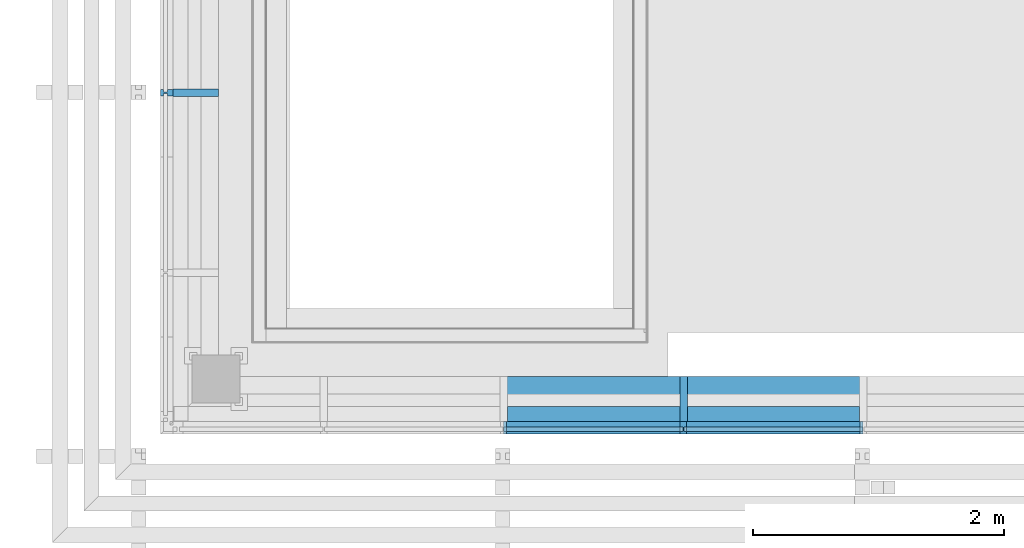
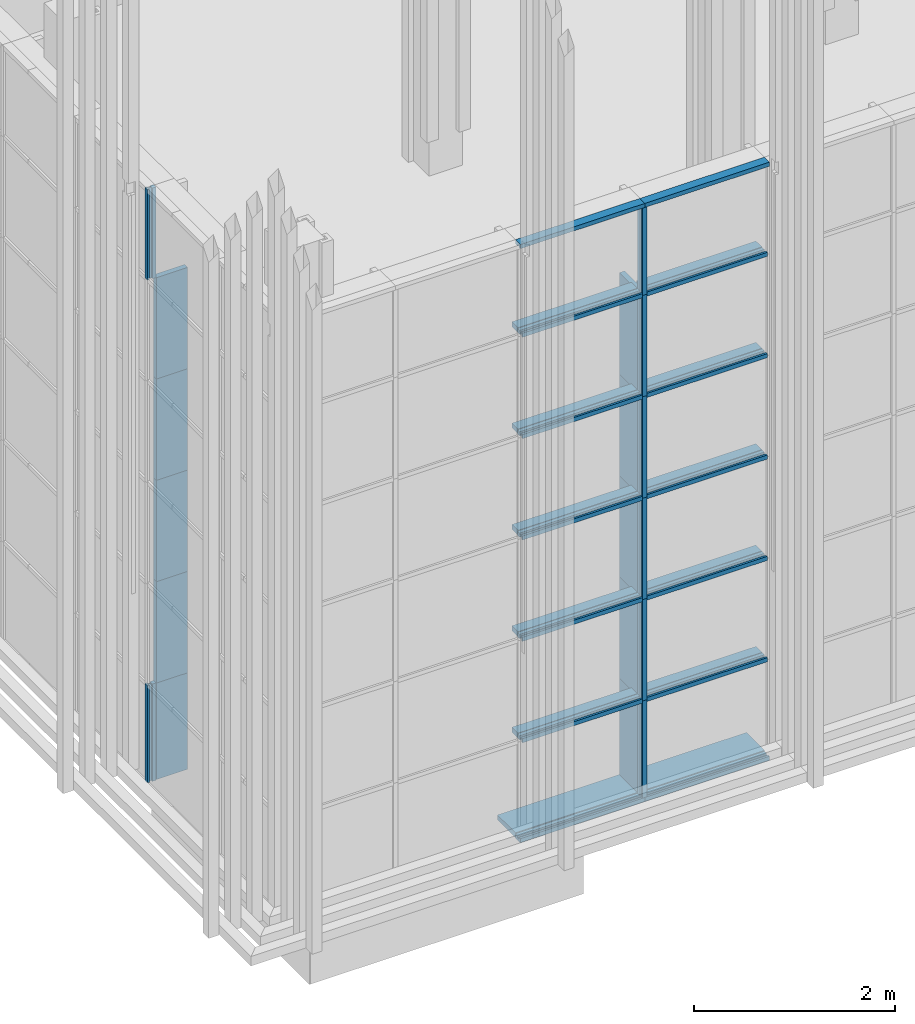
# One storey, part 4 of 260: 44 members, 2 elements without a shape of their own.
"""IFC2X3 building model written with IfcOpenShell, lengths in millimetres."""

import ifcopenshell
import ifcopenshell.guid

model = None  # the IFC model being written
_history = None  # IfcOwnerHistory: only IFC2X3 demands one
_inside = {}  # id of a spatial element -> (the spatial element, [elements in it])
_under = {}  # id of a project, library or spatial element -> (it, [spatial elements below it])
_declared = {}  # id of a project -> (the project, [libraries it declares])
_typed = {}  # id of a type object -> (the type object, [elements of that type])
_made_of = {}  # id of a material, layer set ... -> (it, [elements and type objects made of it])


def new_model(schema):
    """Start an empty IFC model of exactly this schema.

    Asked for "IFC4X3", IfcOpenShell would pick the latest addendum, in which some entities
    have other attributes; the version numbers below select the first issue.
    IFC2X3 requires an IfcOwnerHistory on every rooted entity: one is made here for all.
    """
    global model, _history
    if schema == "IFC4X3":
        model = ifcopenshell.file(schema_version=(4, 3, 0, 0))
    else:
        model = ifcopenshell.file(schema=schema)
    _inside.clear()
    _under.clear()
    _declared.clear()
    _typed.clear()
    _made_of.clear()
    _history = None
    if model.schema == "IFC2X3":
        org = make("IfcOrganization", Name="unknown")
        user = make(
            "IfcPersonAndOrganization",
            ThePerson=make("IfcPerson", FamilyName="unknown"),
            TheOrganization=org,
        )
        app = make(
            "IfcApplication",
            ApplicationDeveloper=org,
            Version="unknown",
            ApplicationFullName="unknown",
            ApplicationIdentifier="unknown",
        )
        _history = make(
            "IfcOwnerHistory",
            OwningUser=user,
            OwningApplication=app,
            ChangeAction="ADDED",
            CreationDate=0,
        )
    return model


def make(cls, **values):
    """One entity of the class cls with the attributes given. An attribute that is None is left unset."""
    return model.create_entity(
        cls, **{name: value for name, value in values.items() if value is not None}
    )


def entity(cls, *values):
    """Any entity or typed value of the class cls, its attributes in the order of the schema. None: left unset."""
    e = model.create_entity(cls)
    for i, value in enumerate(values):
        if value is not None:
            e[i] = value
    return e


def rooted(cls, **values):
    """An entity with a GlobalId (a new one), such as an element, a storey or a relation."""
    return make(cls, GlobalId=ifcopenshell.guid.new(), OwnerHistory=_history, **values)


def si_unit(unit_type, name, prefix=None):
    """IfcSIUnit, for example si_unit("LENGTHUNIT", "METRE", prefix="MILLI")."""
    return make("IfcSIUnit", UnitType=unit_type, Prefix=prefix, Name=name)


def converted_unit(unit_type, name, factor, base, dimensions=None, offset=None):
    """IfcConversionBasedUnit, such as the inch: factor (a typed value) times the base unit."""
    return make(
        "IfcConversionBasedUnit"
        if offset is None
        else "IfcConversionBasedUnitWithOffset",
        ConversionOffset=offset,
        Dimensions=None
        if dimensions is None
        else entity("IfcDimensionalExponents", *dimensions),
        UnitType=unit_type,
        Name=name,
        ConversionFactor=make(
            "IfcMeasureWithUnit", ValueComponent=factor, UnitComponent=base
        ),
    )


def derived_unit(unit_type, elements):
    """IfcDerivedUnit: a product of units, each with its exponent."""
    return make(
        "IfcDerivedUnit",
        Elements=[
            make("IfcDerivedUnitElement", Unit=unit, Exponent=power)
            for unit, power in elements
        ],
        UnitType=unit_type,
    )


def money_unit(currency):
    """IfcMonetaryUnit."""
    return make("IfcMonetaryUnit", Currency=currency)


def assignment(units):
    """IfcUnitAssignment: the units of a project."""
    return None if units is None else make("IfcUnitAssignment", Units=units)


def point(xyz):
    """IfcCartesianPoint."""
    return None if xyz is None else make("IfcCartesianPoint", Coordinates=xyz)


def direction(xyz):
    """IfcDirection."""
    return None if xyz is None else make("IfcDirection", DirectionRatios=xyz)


def frame(location, z_axis=None, x_axis=None):
    """IfcAxis2Placement3D, a coordinate frame: its origin and axes. An axis left out is left unset."""
    return make(
        "IfcAxis2Placement3D",
        Location=point(location),
        Axis=direction(z_axis),
        RefDirection=direction(x_axis),
    )


def origin_with_axes():
    """The frame at (0, 0, 0) with the z axis (0, 0, 1) and the x axis (1, 0, 0) written out."""
    return frame((0.0, 0.0, 0.0), z_axis=(0.0, 0.0, 1.0), x_axis=(1.0, 0.0, 0.0))


def place(relative_to, where):
    """IfcLocalPlacement: puts the frame where relative to a parent placement (None: the world)."""
    return make(
        "IfcLocalPlacement", PlacementRelTo=relative_to, RelativePlacement=where
    )


def context(
    kind, dimensions, precision=None, world=None, true_north=None, identifier=None
):
    """IfcGeometricRepresentationContext, for example the 3D "Model" context."""
    return make(
        "IfcGeometricRepresentationContext",
        ContextIdentifier=identifier,
        ContextType=kind,
        CoordinateSpaceDimension=dimensions,
        Precision=precision,
        WorldCoordinateSystem=world,
        TrueNorth=true_north,
    )


def subcontext(parent, identifier, kind, view, scale=None):
    """IfcGeometricRepresentationSubContext, for example "Body" below "Model"."""
    return make(
        "IfcGeometricRepresentationSubContext",
        ContextIdentifier=identifier,
        ContextType=kind,
        ParentContext=parent,
        TargetScale=scale,
        TargetView=view,
    )


def project(units=None, contexts=None):
    """IfcProject with its units and contexts."""
    return rooted(
        "IfcProject",
        Name="project",
        RepresentationContexts=contexts,
        UnitsInContext=assignment(units),
    )


def spatial(cls, under=None, at=None, **own):
    """A site, building, storey or space (cls), placed at a placement, below another one or the project."""
    s = rooted(cls, ObjectPlacement=at, **own)
    if under is not None:
        _under.setdefault(under.id(), (under, []))[1].append(s)
    return s


def faces_of(points, faces, orient=None, outer=None):
    """IfcFace entities. A face is a list of loops; a loop is a list of indices into points, from 0.

    orient and outer hold one flag for each loop. By default every Orientation is true, the
    first loop of a face is its IfcFaceOuterBound and the others are IfcFaceBound.
    """
    made = []
    for i, loops in enumerate(faces):
        bounds = []
        for j, loop in enumerate(loops):
            is_outer = j == 0 if outer is None else outer[i][j]
            bounds.append(
                make(
                    "IfcFaceOuterBound" if is_outer else "IfcFaceBound",
                    Bound=make("IfcPolyLoop", Polygon=[points[k] for k in loop]),
                    Orientation=True if orient is None else orient[i][j],
                )
            )
        made.append(make("IfcFace", Bounds=bounds))
    return made


def faceted_brep(points, faces, orient=None, outer=None, voids=None):
    """IfcFacetedBrep: a solid bounded by flat faces; with voids (closed shells), ...WithVoids."""
    shared = [point(p) for p in points]
    hull = make("IfcClosedShell", CfsFaces=faces_of(shared, faces, orient, outer))
    if voids is None:
        return make("IfcFacetedBrep", Outer=hull)
    return make(
        "IfcFacetedBrepWithVoids",
        Outer=hull,
        Voids=[
            make(cls, CfsFaces=faces_of(shared, fs, o, b)) for cls, fs, o, b in voids
        ],
    )


def shape(context_of_items, identifier, shape_type, items):
    """IfcShapeRepresentation: the items that make up one representation, for example the "Body"."""
    return make(
        "IfcShapeRepresentation",
        ContextOfItems=context_of_items,
        RepresentationIdentifier=identifier,
        RepresentationType=shape_type,
        Items=items,
    )


def source(mapping_origin, context_of_items, identifier, shape_type, items):
    """IfcRepresentationMap: a shape defined once, which mapped items show again and again."""
    return make(
        "IfcRepresentationMap",
        MappingOrigin=mapping_origin,
        MappedRepresentation=shape(context_of_items, identifier, shape_type, items),
    )


def transform(
    local_origin,
    x_axis=None,
    y_axis=None,
    z_axis=None,
    scale=None,
    scale2=None,
    scale3=None,
    uniform=True,
):
    """IfcCartesianTransformationOperator3D, or its non-uniform kind. x_axis, y_axis, z_axis: its Axis1, 2, 3."""
    if uniform:
        return make(
            "IfcCartesianTransformationOperator3D",
            Axis1=direction(x_axis),
            Axis2=direction(y_axis),
            LocalOrigin=point(local_origin),
            Scale=scale,
            Axis3=direction(z_axis),
        )
    return make(
        "IfcCartesianTransformationOperator3DnonUniform",
        Axis1=direction(x_axis),
        Axis2=direction(y_axis),
        LocalOrigin=point(local_origin),
        Scale=scale,
        Axis3=direction(z_axis),
        Scale2=scale2,
        Scale3=scale3,
    )


def mapped(mapping_source, mapping_target):
    """IfcMappedItem: shows the shape of a source again, moved by a transform."""
    return make(
        "IfcMappedItem", MappingSource=mapping_source, MappingTarget=mapping_target
    )


def material(Name=None, Category=None):
    """IfcMaterial."""
    return make("IfcMaterial", Name=Name, Category=Category)


def made_of(thing, what):
    """Note that an element or type object is made of a material, layer set ...; save() writes the relation."""
    if what is not None:
        _made_of.setdefault(what.id(), (what, []))[1].append(thing)
    return thing


def type_object(cls, material=None, **own):
    """A type object (cls), such as IfcWallType, which elements share."""
    return made_of(rooted(cls, **own), material)


def element(
    cls,
    number,
    at=None,
    inside=None,
    cuts=None,
    type_object=None,
    material=None,
    context=None,
    identifier="Body",
    shape_type=None,
    held_by="IfcProductDefinitionShape",
    body=None,
    shapes=None,
    **own,
):
    """One element of the class cls, such as IfcWall. Its Tag is "e" and its number.

    at: its placement. inside: the storey or other place that contains it. cuts: it is an
    opening in that element (IfcRelVoidsElement). A single representation is given by context,
    identifier, shape_type and body (its items); several are given by shapes. held_by: the class
    of the entity that holds the representations. save() writes the other relations.
    """
    e = rooted(cls, Tag="e%d" % number, ObjectPlacement=at, **own)
    if body is not None:
        shapes = [shape(context, identifier, shape_type, body)]
    if shapes is not None:
        e.Representation = make(held_by, Representations=shapes)
    if inside is not None:
        _inside.setdefault(inside.id(), (inside, []))[1].append(e)
    if cuts is not None:
        rooted(
            "IfcRelVoidsElement", RelatingBuildingElement=cuts, RelatedOpeningElement=e
        )
    if type_object is not None:
        _typed.setdefault(type_object.id(), (type_object, []))[1].append(e)
    return made_of(e, material)


def aggregate(whole, parts):
    """IfcRelAggregates: a whole, such as a stair, and the parts it consists of."""
    return rooted("IfcRelAggregates", RelatingObject=whole, RelatedObjects=parts)


def save(model, path):
    """Write the relations noted so far, then the file.

    IfcRelAggregates (storeys below a building ...), IfcRelContainedInSpatialStructure (elements
    in a storey), IfcRelDefinesByType, IfcRelAssociatesMaterial and IfcRelDeclares: one each for
    every whole, place, type object, material and project.
    """
    for whole, parts in _under.values():
        aggregate(whole, parts)
    for where, things in _inside.values():
        rooted(
            "IfcRelContainedInSpatialStructure",
            RelatedElements=things,
            RelatingStructure=where,
        )
    for kind, things in _typed.values():
        rooted("IfcRelDefinesByType", RelatedObjects=things, RelatingType=kind)
    for what, things in _made_of.values():
        rooted("IfcRelAssociatesMaterial", RelatedObjects=things, RelatingMaterial=what)
    for by, libraries in _declared.values():
        rooted("IfcRelDeclares", RelatingContext=by, RelatedDefinitions=libraries)
    model.write(path)


model = new_model("IFC2X3")

# Units and contexts
model_context = context("Model", 3, precision=0.01, world=origin_with_axes(), true_north=direction((0.0, 1.0)))
body_context = subcontext(model_context, "Body", "Model", "MODEL_VIEW")
ifc_project = project(units=[si_unit("LENGTHUNIT", "METRE", prefix="MILLI"), si_unit("AREAUNIT", "SQUARE_METRE"), si_unit("VOLUMEUNIT", "CUBIC_METRE"), converted_unit("PLANEANGLEUNIT", "DEGREE", entity("IfcPlaneAngleMeasure", 0.0174532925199), si_unit("PLANEANGLEUNIT", "RADIAN"), dimensions=[0, 0, 0, 0, 0, 0, 0]), money_unit("EUR"), converted_unit("TIMEUNIT", "Year", entity("IfcTimeMeasure", 31556926.0), si_unit("TIMEUNIT", "SECOND"), dimensions=[0, 0, 1, 0, 0, 0, 0]), si_unit("MASSUNIT", "GRAM", prefix="KILO"), si_unit("THERMODYNAMICTEMPERATUREUNIT", "DEGREE_CELSIUS"), si_unit("LUMINOUSINTENSITYUNIT", "LUMEN"), si_unit("ENERGYUNIT", "JOULE", prefix="MEGA"), derived_unit("THERMALCONDUCTANCEUNIT", [(si_unit("POWERUNIT", "WATT"), 1), (si_unit("LENGTHUNIT", "METRE"), -1), (si_unit("THERMODYNAMICTEMPERATUREUNIT", "KELVIN"), -1)]), derived_unit("SPECIFICHEATCAPACITYUNIT", [(si_unit("ENERGYUNIT", "JOULE"), 1), (si_unit("MASSUNIT", "GRAM", prefix="KILO"), -1), (si_unit("THERMODYNAMICTEMPERATUREUNIT", "KELVIN"), -1)]), derived_unit("MASSDENSITYUNIT", [(si_unit("MASSUNIT", "GRAM", prefix="KILO"), 1), (si_unit("VOLUMEUNIT", "CUBIC_METRE"), -1)])], contexts=[model_context])

# Site, building, storey
site_placement = place(None, origin_with_axes())
site = spatial("IfcSite", under=ifc_project, at=site_placement, Name="Kolde pst 67a", CompositionType="ELEMENT")
building_placement = place(site_placement, origin_with_axes())
building = spatial("IfcBuilding", under=site, at=building_placement, Name="Riigigümnaasium", CompositionType="ELEMENT")
storey_placement = place(building_placement, origin_with_axes())
storey = spatial("IfcBuildingStorey", under=building, at=storey_placement, Name="1. korrus", CompositionType="ELEMENT", Elevation=0.0)

# Curtain wall, members
curtain_wall_type = type_object("IfcCurtainWallType", Name="Curtain Wall Type", PredefinedType="NOTDEFINED")
curtain_wall_1_placement = place(storey_placement, frame((47829.9854655, 8727.77020058, -0.000749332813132), z_axis=(0.0, 0.0, 1.0), x_axis=(1.0, 0.0, 0.0)))
curtain_wall_1 = element("IfcCurtainWall", 1, at=curtain_wall_1_placement, inside=storey, type_object=curtain_wall_type, Name="KLAASFASSAAD")
ifc_material_1 = material(Name="_METALL - alumiinium")
member_type_1 = type_object("IfcMemberType", Name="Mullion Frame 50 x 100", PredefinedType="MEMBER")
shared_shape_1 = source(origin_with_axes(), body_context, "Body", "Brep", [
    faceted_brep([(5.0, -16.5, 1230.00046362), (5.0, 16.5, 1230.00046362), (25.0, 16.5, 1230.00046362), (25.0, 40.0, 1230.00046362), (-25.0, 40.0, 1230.00046362), (-25.0, 16.5, 1230.00046362), (-5.0, 16.5, 1230.00046362), (-5.0, -16.5, 1230.00046362), (-25.0, -16.5, 1230.00046362), (-25.0, -60.0, 1230.00046362), (25.0, -60.0, 1230.00046362), (25.0, -16.5, 1230.00046362), (5.0, -16.5, 50.0), (5.0, 16.5, 50.0), (25.0, 16.5, 50.0), (25.0, 40.0, 50.0), (-25.0, 40.0, 50.0), (-25.0, 16.5, 50.0), (-5.0, 16.5, 50.0), (-5.0, -16.5, 50.0), (-25.0, -16.5, 50.0), (-25.0, -60.0, 50.0), (25.0, -60.0, 50.0), (25.0, -16.5, 50.0)], [[[0, 1, 2, 3, 4, 5, 6, 7, 8, 9, 10, 11]], [[0, 12, 13, 1]], [[1, 13, 14, 2]], [[14, 15, 3, 2]], [[4, 3, 15, 16]], [[17, 5, 4, 16]], [[5, 17, 18, 6]], [[7, 6, 18, 19]], [[8, 7, 19, 20]], [[8, 20, 21, 9]], [[10, 9, 21, 22]], [[11, 10, 22, 23]], [[11, 23, 12, 0]], [[13, 12, 23, 22, 21, 20, 19, 18, 17, 16, 15, 14]]]),
])
member_1_placement = place(curtain_wall_1_placement, frame((-19882.415063, 15102.4568193, 0.000285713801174), z_axis=(0.0, 0.0, 1.0), x_axis=(0.999999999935, -1.14108152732e-05, 0.0)))
member_1 = element("IfcMember", 2, at=member_1_placement, type_object=member_type_1, material=ifc_material_1, Name="RF RAAM VERT-131", ObjectType="MEMBER", context=body_context, shape_type="MappedRepresentation", body=[
    mapped(shared_shape_1, transform((0.0, 0.0, 0.0), x_axis=(-1.0, 0.0, 0.0), y_axis=(0.0, -1.0, 0.0), z_axis=(0.0, 0.0, 1.0))),
])
member_2_placement = place(curtain_wall_1_placement, frame((-23999.9636984, 17777.2742085, 2.49889189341e-05), z_axis=(0.0, 1.01893010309e-08, 1.0), x_axis=(-7.6476848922e-06, -0.999999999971, 1.01893010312e-08)))
member_2 = element("IfcMember", 3, at=member_2_placement, type_object=member_type_1, material=ifc_material_1, Name="RF RAAM VERT-663", ObjectType="MEMBER", context=body_context, shape_type="MappedRepresentation", body=[
    mapped(shared_shape_1, transform((0.0, 0.0, 0.0), x_axis=(-1.0, 0.0, 1.01893010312e-08), y_axis=(0.0, -1.0, 0.0), z_axis=(1.01893010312e-08, 0.0, 1.0))),
])
shared_shape_2 = source(origin_with_axes(), body_context, "Body", "Brep", [
    faceted_brep([(5.0, -16.5, 1230.0), (5.0, 16.5, 1230.0), (25.0, 16.5, 1230.0), (25.0, 40.0, 1230.0), (-25.0, 40.0, 1230.0), (-25.0, 16.5, 1230.0), (-5.0, 16.5, 1230.0), (-5.0, -16.5, 1230.0), (-25.0, -16.5, 1230.0), (-25.0, -60.0, 1230.0), (25.0, -60.0, 1230.0), (25.0, -16.5, 1230.0), (5.0, -16.5, 0.0), (5.0, 16.5, 0.0), (25.0, 16.5, 0.0), (25.0, 40.0, 0.0), (-25.0, 40.0, 0.0), (-25.0, 16.5, 0.0), (-5.0, 16.5, 0.0), (-5.0, -16.5, 0.0), (-25.0, -16.5, 0.0), (-25.0, -60.0, 0.0), (25.0, -60.0, 0.0), (25.0, -16.5, 0.0)], [[[0, 1, 2, 3, 4, 5, 6, 7, 8, 9, 10, 11]], [[0, 12, 13, 1]], [[1, 13, 14, 2]], [[14, 15, 3, 2]], [[3, 15, 16, 4]], [[17, 5, 4, 16]], [[5, 17, 18, 6]], [[7, 6, 18, 19]], [[8, 7, 19, 20]], [[8, 20, 21, 9]], [[9, 21, 22, 10]], [[11, 10, 22, 23]], [[11, 23, 12, 0]], [[13, 12, 23, 22, 21, 20, 19, 18, 17, 16, 15, 14]]]),
])
member_3_placement = place(curtain_wall_1_placement, frame((-19882.415063, 15102.4568193, 1230.00074933), z_axis=(0.0, 0.0, 1.0), x_axis=(0.999999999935, -1.14108152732e-05, 0.0)))
member_3 = element("IfcMember", 4, at=member_3_placement, type_object=member_type_1, material=ifc_material_1, Name="RF RAAM VERT-132", ObjectType="MEMBER", context=body_context, shape_type="MappedRepresentation", body=[
    mapped(shared_shape_2, transform((0.0, 0.0, 0.0), x_axis=(-1.0, 0.0, 0.0), y_axis=(0.0, -1.0, 0.0), z_axis=(0.0, 0.0, 1.0))),
])
member_4_placement = place(curtain_wall_1_placement, frame((-19882.415063, 15102.4568193, 2460.00074933), z_axis=(0.0, 0.0, 1.0), x_axis=(0.999999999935, -1.14108152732e-05, 0.0)))
member_4 = element("IfcMember", 5, at=member_4_placement, type_object=member_type_1, material=ifc_material_1, Name="RF RAAM VERT-133", ObjectType="MEMBER", context=body_context, shape_type="MappedRepresentation", body=[
    mapped(shared_shape_2, transform((0.0, 0.0, 0.0), x_axis=(-1.0, 0.0, 0.0), y_axis=(0.0, -1.0, 0.0), z_axis=(0.0, 0.0, 1.0))),
])
member_5_placement = place(curtain_wall_1_placement, frame((-19882.415063, 15102.4568193, 3690.00074933), z_axis=(0.0, 0.0, 1.0), x_axis=(0.999999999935, -1.14108152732e-05, 0.0)))
member_5 = element("IfcMember", 6, at=member_5_placement, type_object=member_type_1, material=ifc_material_1, Name="RF RAAM VERT-134", ObjectType="MEMBER", context=body_context, shape_type="MappedRepresentation", body=[
    mapped(shared_shape_2, transform((0.0, 0.0, 0.0), x_axis=(-1.0, 0.0, 0.0), y_axis=(0.0, -1.0, 0.0), z_axis=(0.0, 0.0, 1.0))),
])
member_6_placement = place(curtain_wall_1_placement, frame((-19882.415063, 15102.4568193, 4920.00074933), z_axis=(0.0, 0.0, 1.0), x_axis=(0.999999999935, -1.14108152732e-05, 0.0)))
member_6 = element("IfcMember", 7, at=member_6_placement, type_object=member_type_1, material=ifc_material_1, Name="RF RAAM VERT-135", ObjectType="MEMBER", context=body_context, shape_type="MappedRepresentation", body=[
    mapped(shared_shape_2, transform((0.0, 0.0, 0.0), x_axis=(-1.0, 0.0, 0.0), y_axis=(0.0, -1.0, 0.0), z_axis=(0.0, 0.0, 1.0))),
])
member_type_2 = type_object("IfcMemberType", Name="Boundary Frame 50 x 100", PredefinedType="MEMBER")
shared_shape_3 = source(origin_with_axes(), body_context, "Body", "Brep", [
    faceted_brep([(-30.0, -16.5, 1430.0), (-50.0, -16.5, 1430.0), (-50.0, -60.0, 1430.0), (0.0, -60.0, 1430.0), (0.0, 40.0, 1430.0), (-50.0, 40.0, 1430.0), (-50.0, 16.5, 1430.0), (-30.0, 16.5, 1430.0), (-30.0, -16.5, 0.0), (-50.0, -16.5, 0.0), (-50.0, -60.0, 0.0), (0.0, -60.0, 0.0), (0.0, 40.0, 0.0), (-50.0, 40.0, 0.0), (-50.0, 16.5, 0.0), (-30.0, 16.5, 0.0)], [[[0, 1, 2, 3, 4, 5, 6, 7]], [[0, 8, 9, 1]], [[9, 10, 2, 1]], [[10, 11, 3, 2]], [[11, 12, 4, 3]], [[12, 13, 5, 4]], [[6, 5, 13, 14]], [[14, 15, 7, 6]], [[7, 15, 8, 0]], [[8, 15, 14, 13, 12, 11, 10, 9]]]),
])
member_7_placement = place(curtain_wall_1_placement, frame((-18452.4150631, 15102.4405019, 0.000285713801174), z_axis=(-0.999999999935, 1.1410815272e-05, 0.0), x_axis=(0.0, 0.0, 1.0)))
member_7 = element("IfcMember", 8, at=member_7_placement, type_object=member_type_2, material=ifc_material_1, Name="RF RAAM SERV-602", ObjectType="MEMBER", context=body_context, shape_type="MappedRepresentation", body=[
    mapped(shared_shape_3, transform((0.0, 0.0, 0.0), x_axis=(-1.0, 0.0, 0.0), y_axis=(0.0, -1.0, 0.0), z_axis=(0.0, 0.0, 1.0))),
])
member_8_placement = place(curtain_wall_1_placement, frame((-19882.415063, 15102.4568193, 0.000285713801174), z_axis=(-0.999999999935, 1.14108152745e-05, 0.0), x_axis=(0.0, 0.0, 1.0)))
member_8 = element("IfcMember", 9, at=member_8_placement, type_object=member_type_2, material=ifc_material_1, Name="RF RAAM SERV-603", ObjectType="MEMBER", context=body_context, shape_type="MappedRepresentation", body=[
    mapped(shared_shape_3, transform((0.0, 0.0, 0.0), x_axis=(-1.0, 0.0, 0.0), y_axis=(0.0, -1.0, 0.0), z_axis=(0.0, 0.0, 1.0))),
])
member_9_placement = place(curtain_wall_1_placement, frame((-19882.415063, 15102.4568193, 7259.99992735), z_axis=(0.999999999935, -1.1410815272e-05, 0.0), x_axis=(0.0, 0.0, -1.0)))
member_9 = element("IfcMember", 10, at=member_9_placement, type_object=member_type_2, material=ifc_material_1, Name="RF RAAM SERV-615", ObjectType="MEMBER", context=body_context, shape_type="MappedRepresentation", body=[
    mapped(shared_shape_3, transform((0.0, 0.0, 0.0), x_axis=(-1.0, 0.0, 0.0), y_axis=(0.0, -1.0, 0.0), z_axis=(0.0, 0.0, 1.0))),
])
member_10_placement = place(curtain_wall_1_placement, frame((-21312.4150629, 15102.4731368, 7259.99992735), z_axis=(0.999999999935, -1.14108152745e-05, 0.0), x_axis=(0.0, 0.0, -1.0)))
member_10 = element("IfcMember", 11, at=member_10_placement, type_object=member_type_2, material=ifc_material_1, Name="RF RAAM SERV-614", ObjectType="MEMBER", context=body_context, shape_type="MappedRepresentation", body=[
    mapped(shared_shape_3, transform((0.0, 0.0, 0.0), x_axis=(-1.0, 0.0, 0.0), y_axis=(0.0, -1.0, 0.0), z_axis=(0.0, 0.0, 1.0))),
])
member_type_3 = type_object("IfcMemberType", Name="Transom Frame 50 x 100", PredefinedType="MEMBER")
shared_shape_4 = source(origin_with_axes(), body_context, "Body", "Brep", [
    faceted_brep([(5.0, -16.5, 1405.0), (5.0, 16.5, 1405.0), (25.0, 16.5, 1405.0), (25.0, 40.0, 1405.0), (-25.0, 40.0, 1405.0), (-25.0, 16.5, 1405.0), (-5.0, 16.5, 1405.0), (-5.0, -16.5, 1405.0), (-25.0, -16.5, 1405.0), (-25.0, -60.0, 1405.0), (25.0, -60.0, 1405.0), (25.0, -16.5, 1405.0), (5.0, -16.5, 25.0), (5.0, 16.5, 25.0), (25.0, 16.5, 25.0), (25.0, 40.0, 25.0), (-25.0, 40.0, 25.0), (-25.0, 16.5, 25.0), (-5.0, 16.5, 25.0), (-5.0, -16.5, 25.0), (-25.0, -16.5, 25.0), (-25.0, -60.0, 25.0), (25.0, -60.0, 25.0), (25.0, -16.5, 25.0)], [[[0, 1, 2, 3, 4, 5, 6, 7, 8, 9, 10, 11]], [[0, 12, 13, 1]], [[1, 13, 14, 2]], [[14, 15, 3, 2]], [[4, 3, 15, 16]], [[17, 5, 4, 16]], [[5, 17, 18, 6]], [[7, 6, 18, 19]], [[8, 7, 19, 20]], [[8, 20, 21, 9]], [[10, 9, 21, 22]], [[11, 10, 22, 23]], [[11, 23, 12, 0]], [[13, 12, 23, 22, 21, 20, 19, 18, 17, 16, 15, 14]]]),
])
member_11_placement = place(curtain_wall_1_placement, frame((-18452.4150631, 15102.4405019, 1230.00074933), z_axis=(-0.999999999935, 1.1410815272e-05, 0.0), x_axis=(0.0, 0.0, 1.0)))
member_11 = element("IfcMember", 12, at=member_11_placement, type_object=member_type_3, material=ifc_material_1, Name="RF RAAM HOR-038", ObjectType="MEMBER", context=body_context, shape_type="MappedRepresentation", body=[
    mapped(shared_shape_4, transform((0.0, 0.0, 0.0), x_axis=(-1.0, 0.0, 0.0), y_axis=(0.0, -1.0, 0.0), z_axis=(0.0, 0.0, 1.0))),
])
member_12_placement = place(curtain_wall_1_placement, frame((-19882.415063, 15102.4568193, 1230.00074933), z_axis=(-0.999999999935, 1.14108152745e-05, 0.0), x_axis=(0.0, 0.0, 1.0)))
member_12 = element("IfcMember", 13, at=member_12_placement, type_object=member_type_3, material=ifc_material_1, Name="RF RAAM HOR-039", ObjectType="MEMBER", context=body_context, shape_type="MappedRepresentation", body=[
    mapped(shared_shape_4, transform((0.0, 0.0, 0.0), x_axis=(-1.0, 0.0, 0.0), y_axis=(0.0, -1.0, 0.0), z_axis=(0.0, 0.0, 1.0))),
])
member_13_placement = place(curtain_wall_1_placement, frame((-18452.4150631, 15102.4405019, 2460.00074933), z_axis=(-0.999999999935, 1.1410815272e-05, 0.0), x_axis=(0.0, 0.0, 1.0)))
member_13 = element("IfcMember", 14, at=member_13_placement, type_object=member_type_3, material=ifc_material_1, Name="RF RAAM HOR-055", ObjectType="MEMBER", context=body_context, shape_type="MappedRepresentation", body=[
    mapped(shared_shape_4, transform((0.0, 0.0, 0.0), x_axis=(-1.0, 0.0, 0.0), y_axis=(0.0, -1.0, 0.0), z_axis=(0.0, 0.0, 1.0))),
])
member_14_placement = place(curtain_wall_1_placement, frame((-19882.415063, 15102.4568193, 2460.00074933), z_axis=(-0.999999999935, 1.14108152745e-05, 0.0), x_axis=(0.0, 0.0, 1.0)))
member_14 = element("IfcMember", 15, at=member_14_placement, type_object=member_type_3, material=ifc_material_1, Name="RF RAAM HOR-056", ObjectType="MEMBER", context=body_context, shape_type="MappedRepresentation", body=[
    mapped(shared_shape_4, transform((0.0, 0.0, 0.0), x_axis=(-1.0, 0.0, 0.0), y_axis=(0.0, -1.0, 0.0), z_axis=(0.0, 0.0, 1.0))),
])
member_15_placement = place(curtain_wall_1_placement, frame((-18452.4150631, 15102.4405019, 3690.00074933), z_axis=(-0.999999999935, 1.1410815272e-05, 0.0), x_axis=(0.0, 0.0, 1.0)))
member_15 = element("IfcMember", 16, at=member_15_placement, type_object=member_type_3, material=ifc_material_1, Name="RF RAAM HOR-072", ObjectType="MEMBER", context=body_context, shape_type="MappedRepresentation", body=[
    mapped(shared_shape_4, transform((0.0, 0.0, 0.0), x_axis=(-1.0, 0.0, 0.0), y_axis=(0.0, -1.0, 0.0), z_axis=(0.0, 0.0, 1.0))),
])
member_16_placement = place(curtain_wall_1_placement, frame((-19882.415063, 15102.4568193, 3690.00074933), z_axis=(-0.999999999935, 1.14108152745e-05, 0.0), x_axis=(0.0, 0.0, 1.0)))
member_16 = element("IfcMember", 17, at=member_16_placement, type_object=member_type_3, material=ifc_material_1, Name="RF RAAM HOR-073", ObjectType="MEMBER", context=body_context, shape_type="MappedRepresentation", body=[
    mapped(shared_shape_4, transform((0.0, 0.0, 0.0), x_axis=(-1.0, 0.0, 0.0), y_axis=(0.0, -1.0, 0.0), z_axis=(0.0, 0.0, 1.0))),
])
member_17_placement = place(curtain_wall_1_placement, frame((-18452.4150631, 15102.4405019, 4920.00074933), z_axis=(-0.999999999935, 1.1410815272e-05, 0.0), x_axis=(0.0, 0.0, 1.0)))
member_17 = element("IfcMember", 18, at=member_17_placement, type_object=member_type_3, material=ifc_material_1, Name="RF RAAM HOR-089", ObjectType="MEMBER", context=body_context, shape_type="MappedRepresentation", body=[
    mapped(shared_shape_4, transform((0.0, 0.0, 0.0), x_axis=(-1.0, 0.0, 0.0), y_axis=(0.0, -1.0, 0.0), z_axis=(0.0, 0.0, 1.0))),
])
member_18_placement = place(curtain_wall_1_placement, frame((-19882.415063, 15102.4568193, 4920.00074933), z_axis=(-0.999999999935, 1.14108152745e-05, 0.0), x_axis=(0.0, 0.0, 1.0)))
member_18 = element("IfcMember", 19, at=member_18_placement, type_object=member_type_3, material=ifc_material_1, Name="RF RAAM HOR-090", ObjectType="MEMBER", context=body_context, shape_type="MappedRepresentation", body=[
    mapped(shared_shape_4, transform((0.0, 0.0, 0.0), x_axis=(-1.0, 0.0, 0.0), y_axis=(0.0, -1.0, 0.0), z_axis=(0.0, 0.0, 1.0))),
])
member_19_placement = place(curtain_wall_1_placement, frame((-18452.4150631, 15102.4405019, 6150.00074933), z_axis=(-0.999999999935, 1.1410815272e-05, 0.0), x_axis=(0.0, 0.0, 1.0)))
member_19 = element("IfcMember", 20, at=member_19_placement, type_object=member_type_3, material=ifc_material_1, Name="RF RAAM HOR-106", ObjectType="MEMBER", context=body_context, shape_type="MappedRepresentation", body=[
    mapped(shared_shape_4, transform((0.0, 0.0, 0.0), x_axis=(-1.0, 0.0, 0.0), y_axis=(0.0, -1.0, 0.0), z_axis=(0.0, 0.0, 1.0))),
])
member_20_placement = place(curtain_wall_1_placement, frame((-19882.415063, 15102.4568193, 6150.00074933), z_axis=(-0.999999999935, 1.14108152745e-05, 0.0), x_axis=(0.0, 0.0, 1.0)))
member_20 = element("IfcMember", 21, at=member_20_placement, type_object=member_type_3, material=ifc_material_1, Name="RF RAAM HOR-107", ObjectType="MEMBER", context=body_context, shape_type="MappedRepresentation", body=[
    mapped(shared_shape_4, transform((0.0, 0.0, 0.0), x_axis=(-1.0, 0.0, 0.0), y_axis=(0.0, -1.0, 0.0), z_axis=(0.0, 0.0, 1.0))),
])
shared_shape_5 = source(origin_with_axes(), body_context, "Body", "Brep", [
    faceted_brep([(5.0, -16.5, 1099.99900713), (5.0, 16.5, 1099.99900713), (25.0, 16.5, 1099.99900713), (25.0, 40.0, 1099.99900713), (-25.0, 40.0, 1099.99900713), (-25.0, 16.5, 1099.99900713), (-5.0, 16.5, 1099.99900713), (-5.0, -16.5, 1099.99900713), (-25.0, -16.5, 1099.99900713), (-25.0, -60.0, 1099.99900713), (25.0, -60.0, 1099.99900713), (25.0, -16.5, 1099.99900713), (5.0, -16.5, -4.55870452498e-07), (5.0, 16.5, -4.55870452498e-07), (25.0, 16.5, -4.55870452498e-07), (25.0, 40.0, -4.55870452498e-07), (-25.0, 40.0, -4.55870452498e-07), (-25.0, 16.5, -4.55870452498e-07), (-5.0, 16.5, -4.55870452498e-07), (-5.0, -16.5, -4.55870452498e-07), (-25.0, -16.5, -4.55870452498e-07), (-25.0, -60.0, -4.55870452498e-07), (25.0, -60.0, -4.55870452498e-07), (25.0, -16.5, -4.55870452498e-07)], [[[0, 1, 2, 3, 4, 5, 6, 7, 8, 9, 10, 11]], [[0, 12, 13, 1]], [[1, 13, 14, 2]], [[14, 15, 3, 2]], [[3, 15, 16, 4]], [[17, 5, 4, 16]], [[5, 17, 18, 6]], [[7, 6, 18, 19]], [[8, 7, 19, 20]], [[8, 20, 21, 9]], [[9, 21, 22, 10]], [[11, 10, 22, 23]], [[11, 23, 12, 0]], [[13, 12, 23, 22, 21, 20, 19, 18, 17, 16, 15, 14]]]),
])
member_21_placement = place(curtain_wall_1_placement, frame((-23999.9636984, 17777.2742085, 6150.00074933), z_axis=(0.0, 0.0, 1.0), x_axis=(-7.6476848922e-06, -0.999999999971, 0.0)))
member_21 = element("IfcMember", 22, at=member_21_placement, type_object=member_type_1, material=ifc_material_1, Name="RF RAAM VERT-110", ObjectType="MEMBER", context=body_context, shape_type="MappedRepresentation", body=[
    mapped(shared_shape_5, transform((0.0, 0.0, 0.0), x_axis=(-1.0, 0.0, 0.0), y_axis=(0.0, -1.0, 0.0), z_axis=(0.0, 0.0, 1.0))),
])
shared_shape_6 = source(origin_with_axes(), body_context, "Body", "Brep", [
    faceted_brep([(5.0, -16.5, 1059.99917802), (5.0, 16.5, 1059.99917802), (25.0, 16.5, 1059.99917802), (25.0, 40.0, 1059.99917802), (-25.0, 40.0, 1059.99917802), (-25.0, 16.5, 1059.99917802), (-5.0, 16.5, 1059.99917802), (-5.0, -16.5, 1059.99917802), (-25.0, -16.5, 1059.99917802), (-25.0, -60.0, 1059.99917802), (25.0, -60.0, 1059.99917802), (25.0, -16.5, 1059.99917802), (5.0, -16.5, 0.0), (5.0, 16.5, 0.0), (25.0, 16.5, 0.0), (25.0, 40.0, 0.0), (-25.0, 40.0, 0.0), (-25.0, 16.5, 0.0), (-5.0, 16.5, 0.0), (-5.0, -16.5, 0.0), (-25.0, -16.5, 0.0), (-25.0, -60.0, 0.0), (25.0, -60.0, 0.0), (25.0, -16.5, 0.0)], [[[0, 1, 2, 3, 4, 5, 6, 7, 8, 9, 10, 11]], [[0, 12, 13, 1]], [[1, 13, 14, 2]], [[14, 15, 3, 2]], [[3, 15, 16, 4]], [[17, 5, 4, 16]], [[5, 17, 18, 6]], [[7, 6, 18, 19]], [[8, 7, 19, 20]], [[8, 20, 21, 9]], [[9, 21, 22, 10]], [[11, 10, 22, 23]], [[11, 23, 12, 0]], [[13, 12, 23, 22, 21, 20, 19, 18, 17, 16, 15, 14]]]),
])
member_22_placement = place(curtain_wall_1_placement, frame((-19882.415063, 15102.4568193, 6150.00074933), z_axis=(0.0, 0.0, 1.0), x_axis=(0.999999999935, -1.14108152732e-05, 0.0)))
member_22 = element("IfcMember", 23, at=member_22_placement, type_object=member_type_1, material=ifc_material_1, Name="RF RAAM VERT-087", ObjectType="MEMBER", context=body_context, shape_type="MappedRepresentation", body=[
    mapped(shared_shape_6, transform((0.0, 0.0, 0.0), x_axis=(-1.0, 0.0, 0.0), y_axis=(0.0, -1.0, 0.0), z_axis=(0.0, 0.0, 1.0))),
])
aggregate(curtain_wall_1, [member_1, member_3, member_4, member_5, member_6, member_7, member_8, member_11, member_12, member_13, member_14, member_15, member_16, member_17, member_18, member_19, member_20, member_2, member_22, member_21, member_9, member_10])

curtain_wall_2_placement = place(storey_placement, frame((23890.0026791, 27220.1832522, -0.000253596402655), z_axis=(0.0, 0.0, 1.0), x_axis=(1.0, 0.0, 0.0)))
curtain_wall_2 = element("IfcCurtainWall", 24, at=curtain_wall_2_placement, inside=storey, type_object=curtain_wall_type, Name="Klaasfassaadi puitkarkass")
ifc_material_2 = material(Name="_KANDETARIND - liimpuit vastavalt EK osale")
member_type_4 = type_object("IfcMemberType", Name="Transom Frame 60 x 120", PredefinedType="MEMBER")
shared_shape_7 = source(origin_with_axes(), body_context, "Body", "Brep", [
    faceted_brep([(-30.0, 0.0, 30.0), (-30.0, -120.0, 30.0), (-30.0, -120.0, 1400.0), (-30.0, 0.0, 1400.0), (30.0, 0.0, 30.0), (30.0, -120.0, 30.0), (30.0, -120.0, 1400.0), (30.0, 0.0, 1400.0)], [[[0, 1, 2, 3]], [[1, 0, 4, 5]], [[1, 5, 6, 2]], [[2, 6, 7, 3]], [[4, 0, 3, 7]], [[5, 4, 7, 6]]]),
])
member_23_placement = place(curtain_wall_2_placement, frame((5489.37705572, -3330.16844674, 1230.0002536), z_axis=(-1.0, 0.0, 0.0), x_axis=(0.0, 0.0, 1.0)))
member_23 = element("IfcMember", 25, at=member_23_placement, type_object=member_type_4, material=ifc_material_2, Name="RF RAAM HOR-648", ObjectType="MEMBER", context=body_context, shape_type="MappedRepresentation", body=[
    mapped(shared_shape_7, transform((0.0, 0.0, 0.0), x_axis=(-1.0, 0.0, 0.0), y_axis=(0.0, -1.0, 0.0), z_axis=(0.0, 0.0, 1.0))),
])
member_24_placement = place(curtain_wall_2_placement, frame((4059.37705572, -3330.16844687, 1230.0002536), z_axis=(-1.0, 0.0, 0.0), x_axis=(0.0, 0.0, 1.0)))
member_24 = element("IfcMember", 26, at=member_24_placement, type_object=member_type_4, material=ifc_material_2, Name="RF RAAM HOR-648", ObjectType="MEMBER", context=body_context, shape_type="MappedRepresentation", body=[
    mapped(shared_shape_7, transform((0.0, 0.0, 0.0), x_axis=(-1.0, 0.0, 0.0), y_axis=(0.0, -1.0, 0.0), z_axis=(0.0, 0.0, 1.0))),
])
member_25_placement = place(curtain_wall_2_placement, frame((5489.37705572, -3330.16844674, 2460.0002536), z_axis=(-1.0, 0.0, 0.0), x_axis=(0.0, 0.0, 1.0)))
member_25 = element("IfcMember", 27, at=member_25_placement, type_object=member_type_4, material=ifc_material_2, Name="RF RAAM HOR-648", ObjectType="MEMBER", context=body_context, shape_type="MappedRepresentation", body=[
    mapped(shared_shape_7, transform((0.0, 0.0, 0.0), x_axis=(-1.0, 0.0, 0.0), y_axis=(0.0, -1.0, 0.0), z_axis=(0.0, 0.0, 1.0))),
])
member_26_placement = place(curtain_wall_2_placement, frame((4059.37705572, -3330.16844687, 2460.0002536), z_axis=(-1.0, 0.0, 0.0), x_axis=(0.0, 0.0, 1.0)))
member_26 = element("IfcMember", 28, at=member_26_placement, type_object=member_type_4, material=ifc_material_2, Name="RF RAAM HOR-648", ObjectType="MEMBER", context=body_context, shape_type="MappedRepresentation", body=[
    mapped(shared_shape_7, transform((0.0, 0.0, 0.0), x_axis=(-1.0, 0.0, 0.0), y_axis=(0.0, -1.0, 0.0), z_axis=(0.0, 0.0, 1.0))),
])
member_27_placement = place(curtain_wall_2_placement, frame((5489.37705572, -3330.16844674, 3690.0002536), z_axis=(-1.0, 0.0, 0.0), x_axis=(0.0, 0.0, 1.0)))
member_27 = element("IfcMember", 29, at=member_27_placement, type_object=member_type_4, material=ifc_material_2, Name="RF RAAM HOR-648", ObjectType="MEMBER", context=body_context, shape_type="MappedRepresentation", body=[
    mapped(shared_shape_7, transform((0.0, 0.0, 0.0), x_axis=(-1.0, 0.0, 0.0), y_axis=(0.0, -1.0, 0.0), z_axis=(0.0, 0.0, 1.0))),
])
member_28_placement = place(curtain_wall_2_placement, frame((4059.37705572, -3330.16844687, 3690.0002536), z_axis=(-1.0, 0.0, 0.0), x_axis=(0.0, 0.0, 1.0)))
member_28 = element("IfcMember", 30, at=member_28_placement, type_object=member_type_4, material=ifc_material_2, Name="RF RAAM HOR-648", ObjectType="MEMBER", context=body_context, shape_type="MappedRepresentation", body=[
    mapped(shared_shape_7, transform((0.0, 0.0, 0.0), x_axis=(-1.0, 0.0, 0.0), y_axis=(0.0, -1.0, 0.0), z_axis=(0.0, 0.0, 1.0))),
])
member_29_placement = place(curtain_wall_2_placement, frame((5489.37705572, -3330.16844674, 4920.0002536), z_axis=(-1.0, 0.0, 0.0), x_axis=(0.0, 0.0, 1.0)))
member_29 = element("IfcMember", 31, at=member_29_placement, type_object=member_type_4, material=ifc_material_2, Name="RF RAAM HOR-648", ObjectType="MEMBER", context=body_context, shape_type="MappedRepresentation", body=[
    mapped(shared_shape_7, transform((0.0, 0.0, 0.0), x_axis=(-1.0, 0.0, 0.0), y_axis=(0.0, -1.0, 0.0), z_axis=(0.0, 0.0, 1.0))),
])
member_30_placement = place(curtain_wall_2_placement, frame((4059.37705572, -3330.16844687, 4920.0002536), z_axis=(-1.0, 0.0, 0.0), x_axis=(0.0, 0.0, 1.0)))
member_30 = element("IfcMember", 32, at=member_30_placement, type_object=member_type_4, material=ifc_material_2, Name="RF RAAM HOR-648", ObjectType="MEMBER", context=body_context, shape_type="MappedRepresentation", body=[
    mapped(shared_shape_7, transform((0.0, 0.0, 0.0), x_axis=(-1.0, 0.0, 0.0), y_axis=(0.0, -1.0, 0.0), z_axis=(0.0, 0.0, 1.0))),
])
member_31_placement = place(curtain_wall_2_placement, frame((5489.37705572, -3330.16844674, 6150.0002536), z_axis=(-1.0, 0.0, 0.0), x_axis=(0.0, 0.0, 1.0)))
member_31 = element("IfcMember", 33, at=member_31_placement, type_object=member_type_4, material=ifc_material_2, Name="RF RAAM HOR-648", ObjectType="MEMBER", context=body_context, shape_type="MappedRepresentation", body=[
    mapped(shared_shape_7, transform((0.0, 0.0, 0.0), x_axis=(-1.0, 0.0, 0.0), y_axis=(0.0, -1.0, 0.0), z_axis=(0.0, 0.0, 1.0))),
])
member_32_placement = place(curtain_wall_2_placement, frame((4059.37705572, -3330.16844687, 6150.0002536), z_axis=(-1.0, 0.0, 0.0), x_axis=(0.0, 0.0, 1.0)))
member_32 = element("IfcMember", 34, at=member_32_placement, type_object=member_type_4, material=ifc_material_2, Name="RF RAAM HOR-648", ObjectType="MEMBER", context=body_context, shape_type="MappedRepresentation", body=[
    mapped(shared_shape_7, transform((0.0, 0.0, 0.0), x_axis=(-1.0, 0.0, 0.0), y_axis=(0.0, -1.0, 0.0), z_axis=(0.0, 0.0, 1.0))),
])
member_type_5 = type_object("IfcMemberType", Name="Mullion Frame 60 x 360", PredefinedType="MEMBER")
shared_shape_8 = source(origin_with_axes(), body_context, "Body", "Brep", [
    faceted_brep([(-30.0, 0.0, 60.0), (-30.0, -360.0, 60.0), (-30.0, -360.0, 1230.0002536), (-30.0, 0.0, 1230.0002536), (30.0, 0.0, 60.0), (30.0, -360.0, 60.0), (30.0, -360.0, 1230.0002536), (30.0, 0.0, 1230.0002536)], [[[0, 1, 2, 3]], [[1, 0, 4, 5]], [[1, 5, 6, 2]], [[2, 6, 7, 3]], [[4, 0, 3, 7]], [[5, 4, 7, 6]]]),
])
member_33_placement = place(curtain_wall_2_placement, frame((-3.66502916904e-06, -715.0, 0.0), z_axis=(0.0, 0.0, 1.0), x_axis=(-5.12591492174e-09, -1.0, 0.0)))
member_33 = element("IfcMember", 35, at=member_33_placement, type_object=member_type_5, material=ifc_material_2, Name="RF RAAM VERT-837", ObjectType="MEMBER", context=body_context, shape_type="MappedRepresentation", body=[
    mapped(shared_shape_8, transform((0.0, 0.0, 0.0), x_axis=(-1.0, 0.0, 0.0), y_axis=(0.0, -1.0, 0.0), z_axis=(0.0, 0.0, 1.0))),
])
member_34_placement = place(curtain_wall_2_placement, frame((4059.37705572, -3330.16844687, 0.000124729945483), z_axis=(0.0, 0.0, 1.0), x_axis=(1.0, 0.0, 0.0)))
member_34 = element("IfcMember", 36, at=member_34_placement, type_object=member_type_5, material=ifc_material_2, Name="RF RAAM VERT-837", ObjectType="MEMBER", context=body_context, shape_type="MappedRepresentation", body=[
    mapped(shared_shape_8, transform((0.0, 0.0, 0.0), x_axis=(-1.0, 0.0, 0.0), y_axis=(0.0, -1.0, 0.0), z_axis=(0.0, 0.0, 1.0))),
])
shared_shape_9 = source(origin_with_axes(), body_context, "Body", "Brep", [
    faceted_brep([(-30.0, -360.0, 0.0), (-30.0, -360.0, 1230.0), (-30.0, 0.0, 1230.0), (-30.0, 0.0, 0.0), (30.0, -360.0, 0.0), (30.0, -360.0, 1230.0), (30.0, 0.0, 1230.0), (30.0, 0.0, 0.0)], [[[0, 1, 2, 3]], [[4, 5, 1, 0]], [[1, 5, 6, 2]], [[3, 2, 6, 7]], [[0, 3, 7, 4]], [[7, 6, 5, 4]]]),
])
member_35_placement = place(curtain_wall_2_placement, frame((-3.66502916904e-06, -715.0, 1230.0002536), z_axis=(0.0, 0.0, 1.0), x_axis=(-5.12591492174e-09, -1.0, 0.0)))
member_35 = element("IfcMember", 37, at=member_35_placement, type_object=member_type_5, material=ifc_material_2, Name="RF RAAM VERT-837", ObjectType="MEMBER", context=body_context, shape_type="MappedRepresentation", body=[
    mapped(shared_shape_9, transform((0.0, 0.0, 0.0), x_axis=(-1.0, 0.0, 0.0), y_axis=(0.0, -1.0, 0.0), z_axis=(0.0, 0.0, 1.0))),
])
member_36_placement = place(curtain_wall_2_placement, frame((-3.66502916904e-06, -715.0, 2460.0002536), z_axis=(0.0, 0.0, 1.0), x_axis=(-5.12591492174e-09, -1.0, 0.0)))
member_36 = element("IfcMember", 38, at=member_36_placement, type_object=member_type_5, material=ifc_material_2, Name="RF RAAM VERT-837", ObjectType="MEMBER", context=body_context, shape_type="MappedRepresentation", body=[
    mapped(shared_shape_9, transform((0.0, 0.0, 0.0), x_axis=(-1.0, 0.0, 0.0), y_axis=(0.0, -1.0, 0.0), z_axis=(0.0, 0.0, 1.0))),
])
member_37_placement = place(curtain_wall_2_placement, frame((-3.66502916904e-06, -715.0, 3690.0002536), z_axis=(0.0, 0.0, 1.0), x_axis=(-5.12591492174e-09, -1.0, 0.0)))
member_37 = element("IfcMember", 39, at=member_37_placement, type_object=member_type_5, material=ifc_material_2, Name="RF RAAM VERT-837", ObjectType="MEMBER", context=body_context, shape_type="MappedRepresentation", body=[
    mapped(shared_shape_9, transform((0.0, 0.0, 0.0), x_axis=(-1.0, 0.0, 0.0), y_axis=(0.0, -1.0, 0.0), z_axis=(0.0, 0.0, 1.0))),
])
member_38_placement = place(curtain_wall_2_placement, frame((-3.66502916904e-06, -715.0, 4920.0002536), z_axis=(0.0, 0.0, 1.0), x_axis=(-5.12591492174e-09, -1.0, 0.0)))
member_38 = element("IfcMember", 40, at=member_38_placement, type_object=member_type_5, material=ifc_material_2, Name="RF RAAM VERT-837", ObjectType="MEMBER", context=body_context, shape_type="MappedRepresentation", body=[
    mapped(shared_shape_9, transform((0.0, 0.0, 0.0), x_axis=(-1.0, 0.0, 0.0), y_axis=(0.0, -1.0, 0.0), z_axis=(0.0, 0.0, 1.0))),
])
member_39_placement = place(curtain_wall_2_placement, frame((4059.37705572, -3330.16844687, 1230.0002536), z_axis=(0.0, 0.0, 1.0), x_axis=(1.0, 0.0, 0.0)))
member_39 = element("IfcMember", 41, at=member_39_placement, type_object=member_type_5, material=ifc_material_2, Name="RF RAAM VERT-837", ObjectType="MEMBER", context=body_context, shape_type="MappedRepresentation", body=[
    mapped(shared_shape_9, transform((0.0, 0.0, 0.0), x_axis=(-1.0, 0.0, 0.0), y_axis=(0.0, -1.0, 0.0), z_axis=(0.0, 0.0, 1.0))),
])
member_40_placement = place(curtain_wall_2_placement, frame((4059.37705572, -3330.16844687, 2460.0002536), z_axis=(0.0, 0.0, 1.0), x_axis=(1.0, 0.0, 0.0)))
member_40 = element("IfcMember", 42, at=member_40_placement, type_object=member_type_5, material=ifc_material_2, Name="RF RAAM VERT-837", ObjectType="MEMBER", context=body_context, shape_type="MappedRepresentation", body=[
    mapped(shared_shape_9, transform((0.0, 0.0, 0.0), x_axis=(-1.0, 0.0, 0.0), y_axis=(0.0, -1.0, 0.0), z_axis=(0.0, 0.0, 1.0))),
])
member_41_placement = place(curtain_wall_2_placement, frame((4059.37705572, -3330.16844687, 3690.0002536), z_axis=(0.0, 0.0, 1.0), x_axis=(1.0, 0.0, 0.0)))
member_41 = element("IfcMember", 43, at=member_41_placement, type_object=member_type_5, material=ifc_material_2, Name="RF RAAM VERT-837", ObjectType="MEMBER", context=body_context, shape_type="MappedRepresentation", body=[
    mapped(shared_shape_9, transform((0.0, 0.0, 0.0), x_axis=(-1.0, 0.0, 0.0), y_axis=(0.0, -1.0, 0.0), z_axis=(0.0, 0.0, 1.0))),
])
member_42_placement = place(curtain_wall_2_placement, frame((4059.37705572, -3330.16844687, 4920.0002536), z_axis=(0.0, 0.0, 1.0), x_axis=(1.0, 0.0, 0.0)))
member_42 = element("IfcMember", 44, at=member_42_placement, type_object=member_type_5, material=ifc_material_2, Name="RF RAAM VERT-837", ObjectType="MEMBER", context=body_context, shape_type="MappedRepresentation", body=[
    mapped(shared_shape_9, transform((0.0, 0.0, 0.0), x_axis=(-1.0, 0.0, 0.0), y_axis=(0.0, -1.0, 0.0), z_axis=(0.0, 0.0, 1.0))),
])
member_type_6 = type_object("IfcMemberType", Name="Boundary Frame 60 x 360", PredefinedType="MEMBER")
shared_shape_10 = source(origin_with_axes(), body_context, "Body", "Brep", [
    faceted_brep([(-60.0, -360.0, 0.0), (-60.0, -360.0, 1430.0), (-60.0, 0.0, 1430.0), (-60.0, 0.0, 0.0), (0.0, -360.0, 0.0), (0.0, -360.0, 1430.0), (0.0, 0.0, 1430.0), (0.0, 0.0, 0.0)], [[[0, 1, 2, 3]], [[4, 5, 1, 0]], [[1, 5, 6, 2]], [[3, 2, 6, 7]], [[0, 3, 7, 4]], [[7, 6, 5, 4]]]),
])
member_43_placement = place(curtain_wall_2_placement, frame((5489.37705572, -3330.16844674, 0.000124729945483), z_axis=(-1.0, 0.0, 0.0), x_axis=(0.0, 0.0, 1.0)))
member_43 = element("IfcMember", 45, at=member_43_placement, type_object=member_type_6, material=ifc_material_2, Name="RF RAAM SERV-675", ObjectType="MEMBER", context=body_context, shape_type="MappedRepresentation", body=[
    mapped(shared_shape_10, transform((0.0, 0.0, 0.0), x_axis=(-1.0, 0.0, 0.0), y_axis=(0.0, -1.0, 0.0), z_axis=(0.0, 0.0, 1.0))),
])
member_44_placement = place(curtain_wall_2_placement, frame((4059.37705572, -3330.16844687, 0.000124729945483), z_axis=(-1.0, 0.0, 0.0), x_axis=(0.0, 0.0, 1.0)))
member_44 = element("IfcMember", 46, at=member_44_placement, type_object=member_type_6, material=ifc_material_2, Name="RF RAAM SERV-676", ObjectType="MEMBER", context=body_context, shape_type="MappedRepresentation", body=[
    mapped(shared_shape_10, transform((0.0, 0.0, 0.0), x_axis=(-1.0, 0.0, 0.0), y_axis=(0.0, -1.0, 0.0), z_axis=(0.0, 0.0, 1.0))),
])
aggregate(curtain_wall_2, [member_33, member_35, member_36, member_37, member_38, member_34, member_39, member_40, member_41, member_42, member_43, member_44, member_23, member_24, member_25, member_26, member_27, member_28, member_29, member_30, member_31, member_32])

save(model, "model.ifc")
